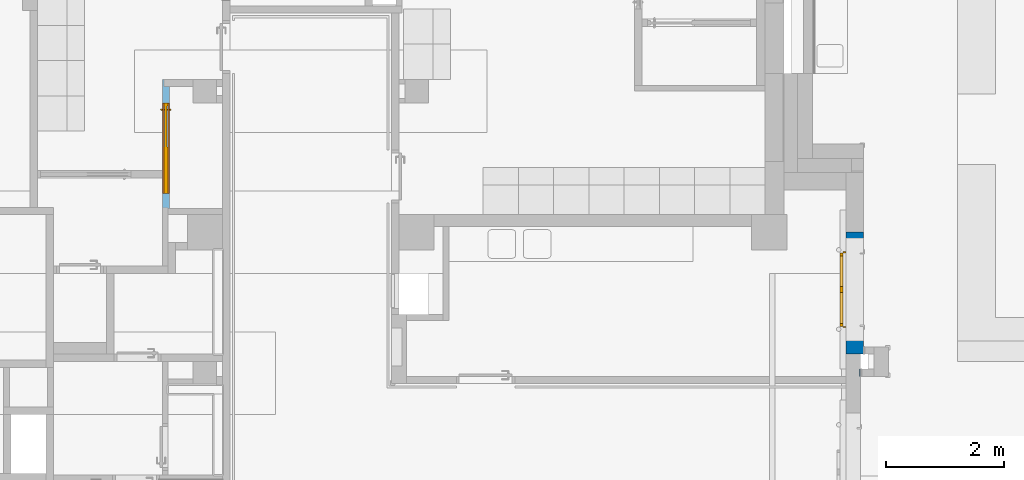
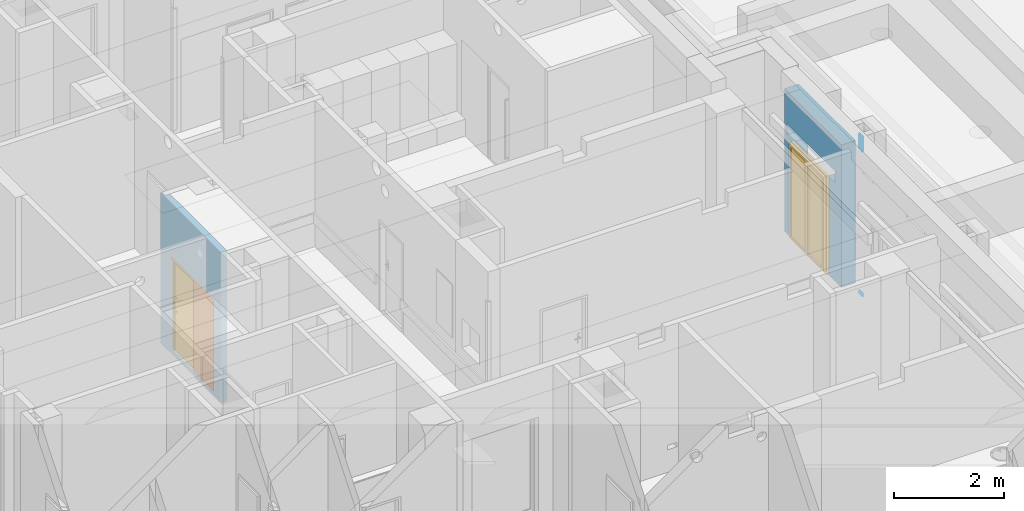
# One storey, part 99 of 140: 2 doors, 2 walls, 1 proxy, 3 openings, plus 1 element that does not belong to this part.
"""IFC4 building model written with IfcOpenShell, lengths in metres."""

from ifc_helpers import new_model, entity, si_unit, converted_unit, derived_unit, frame, origin, origin_with_axes, place, context, subcontext, project, spatial, polyline, outline, extrude, closed_shell, open_shell, faceted_brep, surface_model, source, transform, mapped, material, layer, layer_set, layer_usage, type_object, element, fill, save


model = new_model("IFC4")

# Units and contexts
model_context = context("Model", 3, precision=1e-05, world=origin())
body_context = subcontext(model_context, "Body", "Model", "MODEL_VIEW")
ifc_project = project(units=[si_unit("LENGTHUNIT", "METRE"), si_unit("AREAUNIT", "SQUARE_METRE"), si_unit("VOLUMEUNIT", "CUBIC_METRE"), si_unit("MASSUNIT", "GRAM", prefix="KILO"), converted_unit("PLANEANGLEUNIT", "DEGREE", entity("IfcPlaneAngleMeasure", 0.0174532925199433), si_unit("PLANEANGLEUNIT", "RADIAN"), dimensions=[0, 0, 0, 0, 0, 0, 0]), derived_unit("THERMALTRANSMITTANCEUNIT", [(si_unit("POWERUNIT", "WATT"), 1), (si_unit("THERMODYNAMICTEMPERATUREUNIT", "KELVIN"), -1), (si_unit("LENGTHUNIT", "METRE"), -2)]), derived_unit("VOLUMETRICFLOWRATEUNIT", [(si_unit("LENGTHUNIT", "METRE"), 3), (converted_unit("TIMEUNIT", "hour", entity("IfcTimeMeasure", 3600.0), si_unit("TIMEUNIT", "SECOND"), dimensions=[0, 0, 1, 0, 0, 0, 0]), -1), (si_unit("LENGTHUNIT", "METRE"), -1)])], contexts=[model_context])

# Site, building, storey
site_placement = place(None, origin())
site = spatial("IfcSite", under=ifc_project, at=site_placement, Name="3. ASŘ", CompositionType="ELEMENT")
building_placement = place(site_placement, origin())
building = spatial("IfcBuilding", under=site, at=building_placement, Name="Pavilon C", CompositionType="ELEMENT")
storey_placement = place(building_placement, origin())
storey = spatial("IfcBuildingStorey", under=building, at=storey_placement, Name="Půdorys 1.NP", CompositionType="ELEMENT", Elevation=0.0)

# Wall
ifc_material_1 = material(Name="EPS")
wall_1_placement = place(storey_placement, frame((51.48, 16.75, -0.15)))
element("IfcWall", 1, at=wall_1_placement, inside=storey, material=ifc_material_1, Name="EPS", context=body_context, shape_type="Brep", body=[
    faceted_brep([(0.0, 0.0, 3.22), (0.02, 0.0, 3.22), (0.02, 0.125, 3.22), (0.0, 0.125, 3.22), (0.02, 0.0, 3.55), (0.0, 0.0, 3.55), (0.0, 0.125, 3.55), (0.02, 0.125, 3.55), (0.0, 0.125, 0.05), (0.02, 0.125, 0.05), (0.02, 0.0, 0.05), (0.0, 0.0, 0.05), (0.0, 0.0, 0.0), (0.0, 0.125, 0.0), (0.02, 0.125, 0.0), (0.02, 0.0, 0.0)], [[[0, 1, 2, 3]], [[4, 5, 6, 7]], [[0, 5, 4, 1]], [[1, 4, 7, 2]], [[2, 7, 6, 3]], [[3, 6, 5, 0]], [[8, 9, 10, 11]], [[11, 12, 13, 8]], [[8, 13, 14, 9]], [[9, 14, 15, 10]], [[10, 15, 12, 11]], [[12, 15, 14, 13]]], orient=[[False], [False], [False], [False], [False], [False], [False], [False], [False], [False], [False], [False]]),
])

# Wall, opening, door
ifc_material_2 = material(Name="YTONG 300")
wall_2_placement = place(storey_placement, frame((51.25, 17.125, -0.1)))
wall_2 = element("IfcWall", 2, at=wall_2_placement, inside=storey, material=ifc_material_2, Name="YTONG 300", context=body_context, shape_type="Brep", body=[
    faceted_brep([(0.3, 0.225, 2.449), (0.3, 1.975, 2.449), (0.0, 1.975, 2.449), (0.0, 0.225, 2.449), (0.0, 0.225, 2.2), (0.0, 1.975, 2.2), (0.3, 1.975, 2.2), (0.3, 0.225, 2.2), (0.3, 2.075, -2.27373675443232e-16), (0.3, 0.0, -2.27373675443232e-16), (0.3, 0.0, 3.17), (0.3, 2.075, 3.17), (0.0, 0.0, -2.27373675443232e-16), (0.0, 0.0, 3.17), (0.0, 2.075, -2.27373675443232e-16), (0.0, 2.075, 3.17)], [[[0, 1, 2, 3]], [[4, 5, 6, 7]], [[3, 4, 7, 0]], [[1, 6, 5, 2]], [[8, 9, 10, 11], [6, 1, 0, 7]], [[9, 12, 13, 10]], [[12, 14, 15, 13], [4, 3, 2, 5]], [[14, 8, 11, 15]], [[15, 11, 10, 13]], [[8, 14, 12, 9]]], orient=[[False], [False], [False], [False], [False, False], [False], [False, False], [False], [False], [False]]),
])
opening_1_placement = place(wall_2_placement, frame((0.3, 0.475, 0.0), z_axis=(-1.0, 0.0, 0.0), x_axis=(0.0, 0.0, 1.0)))
opening_1 = element("IfcOpeningElement", 3, at=opening_1_placement, cuts=wall_2, Name="Dveřní otvor", ObjectType="Opening", context=body_context, shape_type="SweptSolid", body=[
    extrude(outline(polyline([(0.0, 1.25), (2.2, 1.25), (2.2, 0.0), (0.0, 0.0), (0.0, 1.25)])), origin_with_axes(), (0.0, 0.0, 1.0), 0.3),
])
door_type_1 = type_object("IfcDoorType", Name="I.DH11", OperationType="NOTDEFINED", ParameterTakesPrecedence=False, PredefinedType="DOOR")
shared_shape_1 = source(origin_with_axes(), body_context, "Body", "SurfaceModel", [
    surface_model("IfcShellBasedSurfaceModel", [(0.0, 0.075, 0.0), (1.29, 0.075, 0.0), (1.29, 0.075, 0.1), (0.0, 0.075, 0.1)], [open_shell([[[0, 1, 2, 3]]], orient=[[False]])]),
    surface_model("IfcShellBasedSurfaceModel", [(0.0, 0.1, 2.22), (0.0, 0.1, 0.101), (0.02, 0.1, 0.101), (0.02, 0.1, 2.22), (0.0, 0.05, 0.101), (0.0, 0.0500000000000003, 2.22), (0.02, 0.0500000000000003, 2.22), (0.02, 0.05, 0.101)], [closed_shell([[[0, 1, 2, 3]], [[4, 5, 6, 7]], [[1, 0, 5, 4]], [[2, 1, 4, 7]], [[3, 2, 7, 6]], [[0, 3, 6, 5]]], orient=[[False], [False], [False], [False], [False], [False]])]),
    surface_model("IfcShellBasedSurfaceModel", [(1.27, 0.1, 2.22), (1.27, 0.1, 0.101), (1.29, 0.1, 0.101), (1.29, 0.1, 2.22), (1.27, 0.05, 0.101), (1.27, 0.0500000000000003, 2.22), (1.29, 0.0500000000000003, 2.22), (1.29, 0.05, 0.101)], [closed_shell([[[0, 1, 2, 3]], [[4, 5, 6, 7]], [[1, 0, 5, 4]], [[2, 1, 4, 7]], [[3, 2, 7, 6]], [[0, 3, 6, 5]]], orient=[[False], [False], [False], [False], [False], [False]])]),
    surface_model("IfcShellBasedSurfaceModel", [(0.02, 0.1, 2.22), (0.02, 0.1, 2.2), (1.27, 0.1, 2.2), (1.27, 0.1, 2.22), (0.02, 0.0500000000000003, 2.2), (0.02, 0.0500000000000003, 2.22), (1.27, 0.0500000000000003, 2.22), (1.27, 0.0500000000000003, 2.2)], [closed_shell([[[0, 1, 2, 3]], [[4, 5, 6, 7]], [[1, 0, 5, 4]], [[2, 1, 4, 7]], [[3, 2, 7, 6]], [[0, 3, 6, 5]]], orient=[[False], [False], [False], [False], [False], [False]])]),
    surface_model("IfcShellBasedSurfaceModel", [(0.02, 0.0500000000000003, 2.2), (0.02, 0.05, 0.101), (0.07, 0.05, 0.101), (0.07, 0.0500000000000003, 2.2), (0.02, 0.0, 0.101), (0.02, 2.55795384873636e-16, 2.2), (0.07, 2.55795384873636e-16, 2.2), (0.07, 0.0, 0.101)], [closed_shell([[[0, 1, 2, 3]], [[4, 5, 6, 7]], [[1, 0, 5, 4]], [[2, 1, 4, 7]], [[3, 2, 7, 6]], [[0, 3, 6, 5]]], orient=[[False], [False], [False], [False], [False], [False]])]),
    surface_model("IfcShellBasedSurfaceModel", [(0.5945, 0.0500000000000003, 2.2), (0.5945, 0.05, 0.101), (0.6445, 0.05, 0.101), (0.6445, 0.0500000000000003, 2.2), (0.5945, 0.0, 0.101), (0.5945, 2.55795384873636e-16, 2.2), (0.6445, 2.55795384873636e-16, 2.2), (0.6445, 0.0, 0.101)], [closed_shell([[[0, 1, 2, 3]], [[4, 5, 6, 7]], [[1, 0, 5, 4]], [[2, 1, 4, 7]], [[3, 2, 7, 6]], [[0, 3, 6, 5]]], orient=[[False], [False], [False], [False], [False], [False]])]),
    surface_model("IfcShellBasedSurfaceModel", [(0.07, 0.05, 0.151), (0.07, 0.05, 0.101), (0.5945, 0.05, 0.101), (0.5945, 0.05, 0.151), (0.07, 0.0, 0.101), (0.07, 7.105427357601e-18, 0.151), (0.5945, 7.105427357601e-18, 0.151), (0.5945, 0.0, 0.101)], [closed_shell([[[0, 1, 2, 3]], [[4, 5, 6, 7]], [[1, 0, 5, 4]], [[2, 1, 4, 7]], [[3, 2, 7, 6]], [[0, 3, 6, 5]]], orient=[[False], [False], [False], [False], [False], [False]])]),
    surface_model("IfcShellBasedSurfaceModel", [(0.07, 0.0500000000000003, 2.2), (0.07, 0.0500000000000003, 2.15), (0.5945, 0.0500000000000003, 2.15), (0.5945, 0.0500000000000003, 2.2), (0.07, 2.55795384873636e-16, 2.15), (0.07, 2.62900812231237e-16, 2.2), (0.5945, 2.62900812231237e-16, 2.2), (0.5945, 2.55795384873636e-16, 2.15)], [closed_shell([[[0, 1, 2, 3]], [[4, 5, 6, 7]], [[1, 0, 5, 4]], [[2, 1, 4, 7]], [[3, 2, 7, 6]], [[0, 3, 6, 5]]], orient=[[False], [False], [False], [False], [False], [False]])]),
    surface_model("IfcShellBasedSurfaceModel", [(0.6455, 0.0500000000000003, 2.2), (0.6455, 0.05, 0.101), (0.6955, 0.05, 0.101), (0.6955, 0.0500000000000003, 2.2), (0.6455, 0.0, 0.101), (0.6455, 2.55795384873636e-16, 2.2), (0.6955, 2.55795384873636e-16, 2.2), (0.6955, 0.0, 0.101)], [closed_shell([[[0, 1, 2, 3]], [[4, 5, 6, 7]], [[1, 0, 5, 4]], [[2, 1, 4, 7]], [[3, 2, 7, 6]], [[0, 3, 6, 5]]], orient=[[False], [False], [False], [False], [False], [False]])]),
    surface_model("IfcShellBasedSurfaceModel", [(1.22, 0.0500000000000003, 2.2), (1.22, 0.05, 0.101), (1.27, 0.05, 0.101), (1.27, 0.0500000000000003, 2.2), (1.22, 0.0, 0.101), (1.22, 2.55795384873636e-16, 2.2), (1.27, 2.55795384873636e-16, 2.2), (1.27, 0.0, 0.101)], [closed_shell([[[0, 1, 2, 3]], [[4, 5, 6, 7]], [[1, 0, 5, 4]], [[2, 1, 4, 7]], [[3, 2, 7, 6]], [[0, 3, 6, 5]]], orient=[[False], [False], [False], [False], [False], [False]])]),
    surface_model("IfcShellBasedSurfaceModel", [(0.6955, 0.05, 0.151), (0.6955, 0.05, 0.101), (1.22, 0.05, 0.101), (1.22, 0.05, 0.151), (0.6955, 0.0, 0.101), (0.6955, 7.105427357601e-18, 0.151), (1.22, 7.105427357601e-18, 0.151), (1.22, 0.0, 0.101)], [closed_shell([[[0, 1, 2, 3]], [[4, 5, 6, 7]], [[1, 0, 5, 4]], [[2, 1, 4, 7]], [[3, 2, 7, 6]], [[0, 3, 6, 5]]], orient=[[False], [False], [False], [False], [False], [False]])]),
    surface_model("IfcShellBasedSurfaceModel", [(0.6955, 0.0500000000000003, 2.2), (0.6955, 0.0500000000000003, 2.15), (1.22, 0.0500000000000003, 2.15), (1.22, 0.0500000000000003, 2.2), (0.6955, 2.55795384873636e-16, 2.15), (0.6955, 2.62900812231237e-16, 2.2), (1.22, 2.62900812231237e-16, 2.2), (1.22, 2.55795384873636e-16, 2.15)], [closed_shell([[[0, 1, 2, 3]], [[4, 5, 6, 7]], [[1, 0, 5, 4]], [[2, 1, 4, 7]], [[3, 2, 7, 6]], [[0, 3, 6, 5]]], orient=[[False], [False], [False], [False], [False], [False]])]),
    surface_model("IfcShellBasedSurfaceModel", [(0.07, 0.025, 0.151), (0.5945, 0.025, 0.151), (0.5945, 0.0250000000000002, 2.15), (0.07, 0.0250000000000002, 2.15)], [open_shell([[[0, 1, 2, 3]]], orient=[[False]])]),
    surface_model("IfcShellBasedSurfaceModel", [(0.6955, 0.025, 0.151), (1.22, 0.025, 0.151), (1.22, 0.0250000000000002, 2.15), (0.6955, 0.0250000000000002, 2.15)], [open_shell([[[0, 1, 2, 3]]], orient=[[False]])]),
])
door_1_placement = place(opening_1_placement, frame((0.0, -0.0200000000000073, 0.400000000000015), z_axis=(1.0, 0.0, 0.0), x_axis=(0.0, 1.0, -2.44929359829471e-16)))
door_1 = element("IfcDoor", 4, at=door_1_placement, inside=storey, type_object=door_type_1, Name="I.DH11", OverallHeight=2.24, OverallWidth=1.33, context=body_context, shape_type="MappedRepresentation", body=[
    mapped(shared_shape_1, transform((0.0, 0.0, 0.0), x_axis=(1.0, 0.0, 0.0), y_axis=(0.0, -1.0, 0.0), z_axis=(0.0, 0.0, 1.0), scale=1.0)),
])
fill(opening_1, door_1)

# Wall, openings, door, proxy
ifc_material_3 = material(Name="SDK - 1 KCE + DVOJITÉ OPLÁŠTĚNÍ")
ifc_layer = layer(ifc_material_3, 0.125)
ifc_layer_set = layer_set([ifc_layer])
ifc_layer_usage = layer_usage(ifc_layer_set, "AXIS2", "POSITIVE", 0.0)
wall_3_placement = place(storey_placement, frame((39.75, 19.6, -0.1), z_axis=(0.0, 0.0, 1.0), x_axis=(0.0, 1.0, 0.0)))
wall_3 = element("IfcWall", 5, at=wall_3_placement, inside=storey, material=ifc_layer_usage, Name="SDK - 1 KCE + DVOJITÉ OPLÁŠTĚNÍ", context=body_context, shape_type="SweptSolid", body=[
    extrude(outline(polyline([(0.0, -0.125), (2.075, -0.125), (2.075, -0.025), (2.2, -0.025), (2.2, 0.0), (0.0, 0.0), (0.0, -0.125)])), frame((0.0, 0.125, 0.0), z_axis=(0.0, 0.0, 1.0), x_axis=(1.0, 0.0, 0.0)), (0.0, 0.0, 1.0), 3.35),
])
opening_2_placement = place(wall_3_placement, frame((0.255, 0.0, 0.1), z_axis=(0.0, 1.0, 0.0), x_axis=(0.0, 0.0, 1.0)))
opening_2 = element("IfcOpeningElement", 6, at=opening_2_placement, cuts=wall_3, Name="Dveřní otvor", ObjectType="Opening", context=body_context, shape_type="SweptSolid", body=[
    extrude(outline(polyline([(0.0, 1.545), (2.06, 1.545), (2.06, 0.0), (0.0, 0.0), (0.0, 1.545)])), origin_with_axes(), (0.0, 0.0, 1.0), 0.125),
])
opening_3_placement = place(wall_3_placement, frame((0.678583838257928, 0.0, 2.78), z_axis=(0.0, 1.0, 0.0), x_axis=(0.0, 0.0, 1.0)))
element("IfcOpeningElement", 7, at=opening_3_placement, cuts=wall_3, Name="VZT", ObjectType="Opening", context=body_context, shape_type="SweptSolid", body=[
    extrude(outline(polyline([(0.0999999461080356, 0.0), (0.0895471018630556, 0.000547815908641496), (0.0792087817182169, 0.00218525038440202), (0.0690982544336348, 0.00489436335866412), (0.0593262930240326, 0.00864547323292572), (0.0499999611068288, 0.0133974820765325), (0.0412214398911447, 0.0190983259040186), (0.0330869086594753, 0.0256855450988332), (0.025685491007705, 0.0330869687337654), (0.0190982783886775, 0.041221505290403), (0.0133974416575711, 0.0500000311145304), (0.00864544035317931, 0.0593263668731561), (0.00489433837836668, 0.0690983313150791), (0.00218523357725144, 0.0792088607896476), (0.000547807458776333, 0.0895471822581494), (0.0, 0.100000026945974), (0.000547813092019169, 0.11045287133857), (0.00218524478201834, 0.120791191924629), (0.00489435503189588, 0.130901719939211), (0.00864546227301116, 0.140673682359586), (0.0133974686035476, 0.150000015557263), (0.0190983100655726, 0.158778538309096), (0.0256855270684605, 0.166913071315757), (0.0330869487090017, 0.174314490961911), (0.0412214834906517, 0.180901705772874), (0.0500000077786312, 0.186602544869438), (0.0593263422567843, 0.191354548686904), (0.0690983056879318, 0.195105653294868), (0.0792088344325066, 0.197814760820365), (0.0895471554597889, 0.199452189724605), (0.0999999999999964, 0.2), (0.110452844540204, 0.199452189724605), (0.120791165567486, 0.197814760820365), (0.130901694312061, 0.195105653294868), (0.140673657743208, 0.191354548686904), (0.149999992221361, 0.186602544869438), (0.158778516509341, 0.180901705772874), (0.166913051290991, 0.174314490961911), (0.174314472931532, 0.166913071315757), (0.18090168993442, 0.158778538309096), (0.186602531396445, 0.150000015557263), (0.191354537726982, 0.140673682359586), (0.195105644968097, 0.130901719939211), (0.197814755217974, 0.120791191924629), (0.199452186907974, 0.11045287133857), (0.199999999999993, 0.100000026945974), (0.199452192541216, 0.0895471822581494), (0.197814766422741, 0.0792088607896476), (0.195105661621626, 0.0690983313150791), (0.191354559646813, 0.0593263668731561), (0.186602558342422, 0.0500000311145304), (0.180901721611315, 0.041221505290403), (0.174314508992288, 0.0330869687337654), (0.166913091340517, 0.0256855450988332), (0.158778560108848, 0.0190983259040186), (0.150000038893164, 0.0133974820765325), (0.14067370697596, 0.00864547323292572), (0.130901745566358, 0.00489436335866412), (0.120791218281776, 0.00218525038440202), (0.110452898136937, 0.000547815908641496), (0.0999999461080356, 0.0)])), origin_with_axes(), (0.0, 0.0, 1.0), 0.125),
])
door_type_2 = type_object("IfcDoorType", Name="I.DP07", OperationType="NOTDEFINED", ParameterTakesPrecedence=False, PredefinedType="DOOR")
shared_shape_2 = source(origin_with_axes(), body_context, "Body", "SurfaceModel", [
    surface_model("IfcShellBasedSurfaceModel", [(0.0, 0.13, 2.06), (0.0, 0.13, -4.59242549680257e-18), (0.795, 0.13, -4.59242549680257e-18), (0.795, 0.13, 2.06), (0.0, 0.0549999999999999, 4.59242549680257e-18), (0.0, 0.0550000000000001, 2.06), (0.795, 0.0550000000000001, 2.06), (0.795, 0.0549999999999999, 4.59242549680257e-18)], [closed_shell([[[0, 1, 2, 3]], [[4, 5, 6, 7]], [[1, 0, 5, 4]], [[2, 1, 4, 7]], [[3, 2, 7, 6]], [[0, 3, 6, 5]]], orient=[[False], [False], [False], [False], [False], [False]])]),
    surface_model("IfcShellBasedSurfaceModel", [(1.495, 0.13, 2.06), (1.495, 0.13, -4.59242549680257e-18), (1.545, 0.13, -4.59242549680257e-18), (1.545, 0.13, 2.06), (1.495, 0.0549999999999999, 4.59242549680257e-18), (1.495, 0.0550000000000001, 2.06), (1.545, 0.0550000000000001, 2.06), (1.545, 0.0549999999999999, 4.59242549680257e-18)], [closed_shell([[[0, 1, 2, 3]], [[4, 5, 6, 7]], [[1, 0, 5, 4]], [[2, 1, 4, 7]], [[3, 2, 7, 6]], [[0, 3, 6, 5]]], orient=[[False], [False], [False], [False], [False], [False]])]),
    surface_model("IfcShellBasedSurfaceModel", [(0.795, 0.13, 2.06), (0.795, 0.13, 1.97), (1.495, 0.13, 1.97), (1.495, 0.13, 2.06), (0.795, 0.0550000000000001, 1.97), (0.795, 0.0550000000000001, 2.06), (1.495, 0.0550000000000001, 2.06), (1.495, 0.0550000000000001, 1.97)], [closed_shell([[[0, 1, 2, 3]], [[4, 5, 6, 7]], [[1, 0, 5, 4]], [[2, 1, 4, 7]], [[3, 2, 7, 6]], [[0, 3, 6, 5]]], orient=[[False], [False], [False], [False], [False], [False]])]),
    surface_model("IfcShellBasedSurfaceModel", [(0.795, 0.11, 1.97), (0.795, 0.11, -2.14313189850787e-18), (1.495, 0.11, -2.14313189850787e-18), (1.495, 0.11, 1.97), (0.795, 0.0699999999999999, 2.75545529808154e-18), (0.795, 0.0700000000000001, 1.97), (1.495, 0.0700000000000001, 1.97), (1.495, 0.0699999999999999, 2.75545529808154e-18)], [closed_shell([[[0, 1, 2, 3]], [[4, 5, 6, 7]], [[1, 0, 5, 4]], [[2, 1, 4, 7]], [[3, 2, 7, 6]], [[0, 3, 6, 5]]], orient=[[False], [False], [False], [False], [False], [False]])]),
    surface_model("IfcShellBasedSurfaceModel", [(1.445, 0.07, 1.2), (1.44299038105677, 0.07, 1.2075), (1.4375, 0.07, 1.21299038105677), (1.43, 0.07, 1.215), (1.4225, 0.07, 1.21299038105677), (1.41700961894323, 0.07, 1.2075), (1.415, 0.07, 1.2), (1.41700961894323, 0.07, 1.1925), (1.4225, 0.07, 1.18700961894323), (1.43, 0.07, 1.185), (1.4375, 0.07, 1.18700961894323), (1.44299038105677, 0.07, 1.1925), (1.445, 0.015, 1.2), (1.44299038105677, 0.00750000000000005, 1.2075), (1.4375, 0.00200961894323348, 1.21299038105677), (1.43, 5.6843418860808e-17, 1.215), (1.4225, 0.00200961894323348, 1.21299038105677), (1.41700961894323, 0.00750000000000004, 1.2075), (1.415, 0.015, 1.2), (1.41700961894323, 0.0225, 1.1925), (1.4225, 0.0279903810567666, 1.18700961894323), (1.43, 0.03, 1.185), (1.4375, 0.0279903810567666, 1.18700961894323), (1.44299038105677, 0.0225000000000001, 1.1925), (1.445, 0.015, 0.9), (1.44299038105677, 0.0075, 0.8925), (1.4375, 0.00200961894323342, 0.887009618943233), (1.43, 0.0, 0.885), (1.4225, 0.00200961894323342, 0.887009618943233), (1.41700961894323, 0.00749999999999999, 0.8925), (1.415, 0.015, 0.9), (1.41700961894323, 0.0225, 0.9075), (1.4225, 0.0279903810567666, 0.912990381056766), (1.43, 0.03, 0.915), (1.4375, 0.0279903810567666, 0.912990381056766), (1.44299038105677, 0.0225, 0.9075), (1.445, 0.07, 0.9), (1.44299038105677, 0.07, 0.8925), (1.4375, 0.07, 0.887009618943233), (1.43, 0.07, 0.885), (1.4225, 0.07, 0.887009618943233), (1.41700961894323, 0.07, 0.8925), (1.415, 0.07, 0.9), (1.41700961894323, 0.07, 0.9075), (1.4225, 0.07, 0.912990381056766), (1.43, 0.07, 0.915), (1.4375, 0.07, 0.912990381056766), (1.44299038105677, 0.07, 0.9075)], [open_shell([[[0, 1, 2, 3, 4, 5, 6, 7, 8, 9, 10, 11]], [[0, 12, 13, 1]], [[1, 13, 14, 2]], [[2, 14, 15, 3]], [[3, 15, 16, 4]], [[4, 16, 17, 5]], [[5, 17, 18, 6]], [[6, 18, 19, 7]], [[7, 19, 20, 8]], [[8, 20, 21, 9]], [[9, 21, 22, 10]], [[10, 22, 23, 11]], [[11, 23, 12, 0]], [[12, 24, 25, 13]], [[13, 25, 26, 14]], [[14, 26, 27, 15]], [[15, 27, 28, 16]], [[16, 28, 29, 17]], [[17, 29, 30, 18]], [[18, 30, 31, 19]], [[19, 31, 32, 20]], [[20, 32, 33, 21]], [[21, 33, 34, 22]], [[22, 34, 35, 23]], [[23, 35, 24, 12]], [[24, 36, 37, 25]], [[25, 37, 38, 26]], [[26, 38, 39, 27]], [[27, 39, 40, 28]], [[28, 40, 41, 29]], [[29, 41, 42, 30]], [[30, 42, 43, 31]], [[31, 43, 44, 32]], [[32, 44, 45, 33]], [[33, 45, 46, 34]], [[34, 46, 47, 35]], [[35, 47, 36, 24]]], orient=[[False], [False], [False], [False], [False], [False], [False], [False], [False], [False], [False], [False], [False], [False], [False], [False], [False], [False], [False], [False], [False], [False], [False], [False], [False], [False], [False], [False], [False], [False], [False], [False], [False], [False], [False], [False], [False]])]),
    surface_model("IfcShellBasedSurfaceModel", [(1.445, 0.11, 1.2), (1.44299038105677, 0.11, 1.1925), (1.4375, 0.11, 1.18700961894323), (1.43, 0.11, 1.185), (1.4225, 0.11, 1.18700961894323), (1.41700961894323, 0.11, 1.1925), (1.415, 0.11, 1.2), (1.41700961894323, 0.11, 1.2075), (1.4225, 0.11, 1.21299038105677), (1.43, 0.11, 1.215), (1.4375, 0.11, 1.21299038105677), (1.44299038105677, 0.11, 1.2075), (1.44299038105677, 0.1725, 1.2075), (1.445, 0.165, 1.2), (1.4375, 0.177990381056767, 1.21299038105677), (1.43, 0.18, 1.215), (1.4225, 0.177990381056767, 1.21299038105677), (1.41700961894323, 0.1725, 1.2075), (1.415, 0.165, 1.2), (1.41700961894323, 0.1575, 1.1925), (1.4225, 0.152009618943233, 1.18700961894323), (1.43, 0.15, 1.185), (1.4375, 0.152009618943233, 1.18700961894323), (1.44299038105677, 0.1575, 1.1925), (1.44299038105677, 0.1725, 0.8925), (1.445, 0.165, 0.9), (1.4375, 0.177990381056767, 0.887009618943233), (1.43, 0.18, 0.885), (1.4225, 0.177990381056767, 0.887009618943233), (1.41700961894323, 0.1725, 0.8925), (1.415, 0.165, 0.9), (1.41700961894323, 0.1575, 0.9075), (1.4225, 0.152009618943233, 0.912990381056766), (1.43, 0.15, 0.915), (1.4375, 0.152009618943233, 0.912990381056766), (1.44299038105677, 0.1575, 0.9075), (1.44299038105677, 0.11, 0.8925), (1.445, 0.11, 0.9), (1.4375, 0.11, 0.887009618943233), (1.43, 0.11, 0.885), (1.4225, 0.11, 0.887009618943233), (1.41700961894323, 0.11, 0.8925), (1.415, 0.11, 0.9), (1.41700961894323, 0.11, 0.9075), (1.4225, 0.11, 0.912990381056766), (1.43, 0.11, 0.915), (1.4375, 0.11, 0.912990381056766), (1.44299038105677, 0.11, 0.9075)], [open_shell([[[0, 1, 2, 3, 4, 5, 6, 7, 8, 9, 10, 11]], [[0, 11, 12, 13]], [[11, 10, 14, 12]], [[10, 9, 15, 14]], [[9, 8, 16, 15]], [[8, 7, 17, 16]], [[7, 6, 18, 17]], [[6, 5, 19, 18]], [[5, 4, 20, 19]], [[4, 3, 21, 20]], [[3, 2, 22, 21]], [[2, 1, 23, 22]], [[1, 0, 13, 23]], [[13, 12, 24, 25]], [[12, 14, 26, 24]], [[14, 15, 27, 26]], [[15, 16, 28, 27]], [[16, 17, 29, 28]], [[17, 18, 30, 29]], [[18, 19, 31, 30]], [[19, 20, 32, 31]], [[20, 21, 33, 32]], [[21, 22, 34, 33]], [[22, 23, 35, 34]], [[23, 13, 25, 35]], [[25, 24, 36, 37]], [[24, 26, 38, 36]], [[26, 27, 39, 38]], [[27, 28, 40, 39]], [[28, 29, 41, 40]], [[29, 30, 42, 41]], [[30, 31, 43, 42]], [[31, 32, 44, 43]], [[32, 33, 45, 44]], [[33, 34, 46, 45]], [[34, 35, 47, 46]], [[35, 25, 37, 47]]], orient=[[False], [False], [False], [False], [False], [False], [False], [False], [False], [False], [False], [False], [False], [False], [False], [False], [False], [False], [False], [False], [False], [False], [False], [False], [False], [False], [False], [False], [False], [False], [False], [False], [False], [False], [False], [False], [False]])]),
])
door_2_placement = place(opening_2_placement, frame((0.0, -7.27595761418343e-15, 0.155000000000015), z_axis=(1.0, 0.0, 0.0), x_axis=(0.0, 1.0, -2.44929359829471e-16)))
door_2 = element("IfcDoor", 8, at=door_2_placement, inside=storey, type_object=door_type_2, Name="I.DP07", OverallHeight=2.06, OverallWidth=1.545, context=body_context, shape_type="MappedRepresentation", body=[
    mapped(shared_shape_2, transform((0.0, 0.0, 0.0), x_axis=(1.0, 0.0, 0.0), y_axis=(0.0, -1.0, 0.0), z_axis=(0.0, 0.0, 1.0), scale=1.0)),
])
fill(opening_2, door_2)
ifc_material_4 = material(Name="SDK - 1 KCE + DVOJITÉ OPLÁŠTĚNÍ")
proxy_placement = place(opening_2_placement, frame((0.0, 0.0, 0.125)))
proxy = element("IfcBuildingElementProxy", 9, at=proxy_placement, inside=storey, material=ifc_material_4, context=body_context, shape_type="Brep", body=[
    faceted_brep([(0.0, 0.0, -0.125), (0.0, 0.0, -0.1), (2.06, 0.0, -0.1), (2.06, 0.0, -0.125), (0.0, 0.745, -0.1), (0.0, 0.745, -0.125), (2.0, 0.745, -0.125), (2.0, 0.745, -0.1), (2.0, 1.545, -0.1), (2.06, 1.545, -0.1), (2.0, 1.545, -0.125), (2.06, 1.545, -0.125), (0.0, 0.745, -7.105427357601e-18), (0.0, 0.745, -0.025), (2.0, 0.745, -0.025), (2.0, 0.745, -7.105427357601e-18), (0.0, 0.0, -0.025), (0.0, 0.0, -7.105427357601e-18), (2.06, 0.0, -7.105427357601e-18), (2.06, 0.0, -0.025), (2.0, 1.545, -0.025), (2.06, 1.545, -0.025), (2.0, 1.545, -7.105427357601e-18), (2.06, 1.545, -7.105427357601e-18)], [[[0, 1, 2, 3]], [[4, 5, 6, 7]], [[0, 5, 4, 1]], [[8, 9, 2, 1, 4, 7]], [[8, 10, 11, 9]], [[10, 6, 5, 0, 3, 11]], [[3, 2, 9, 11]], [[7, 6, 10, 8]], [[12, 13, 14, 15]], [[16, 17, 18, 19]], [[12, 17, 16, 13]], [[20, 14, 13, 16, 19, 21]], [[22, 23, 18, 17, 12, 15]], [[22, 20, 21, 23]], [[23, 21, 19, 18]], [[20, 22, 15, 14]]], orient=[[False], [False], [False], [False], [False], [False], [False], [False], [False], [False], [False], [False], [False], [False], [False], [False]]),
])
fill(opening_2, proxy)

save(model, "model.ifc")
